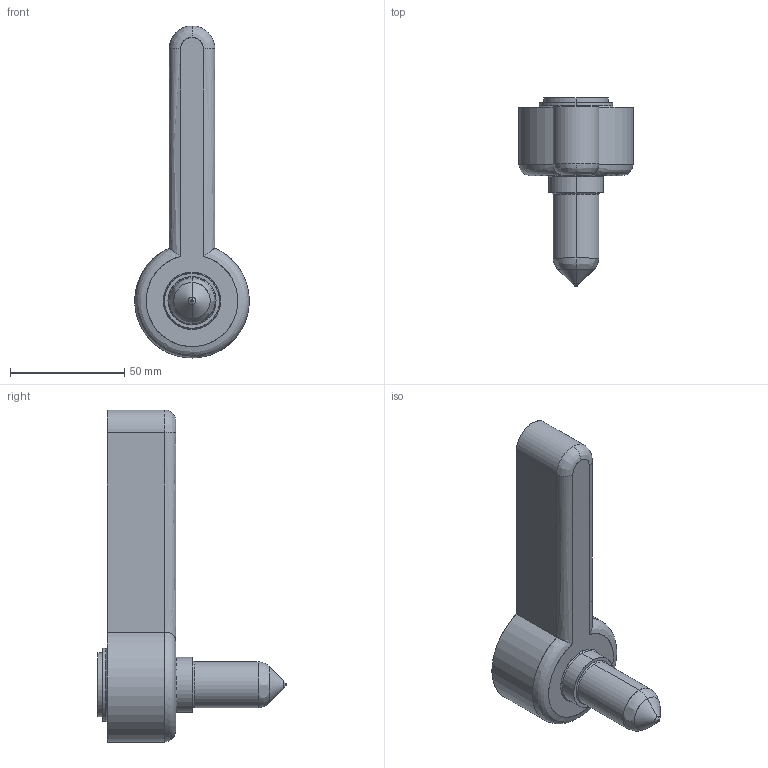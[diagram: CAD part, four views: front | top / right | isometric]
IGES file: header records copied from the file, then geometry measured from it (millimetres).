
Start section: SolidWorks IGES file using analytic representation for surfaces
Global section: file name: C:\Documents and Settings\ws-20\Desktop\TEM\Sede UGGS2520-S-1 C-48 L-80 Ød-1.0.IGS; native system: SolidWorks 2012; preprocessor: SolidWorks 2012; author: ws-20; date: 120516.093923; units: millimetre
Bounding box: 49.98 x 82.17 x 145 mm (x, y, z)
Surface area: 21844.6 mm2 (no closed solid volume)
Topology: 0 solids, 0 shells, 39 faces, 690 edges, 690 vertices
Faces by surface type: revolution 25, bspline 14
